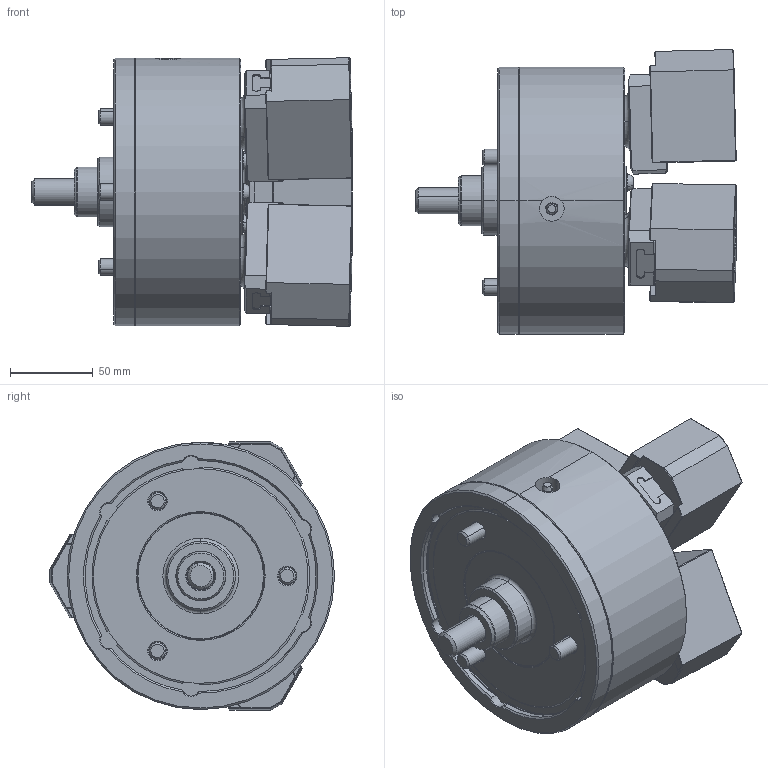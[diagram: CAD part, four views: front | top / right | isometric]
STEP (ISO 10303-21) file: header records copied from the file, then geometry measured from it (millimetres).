
FILE_DESCRIPTION (( 'STEP AP214' ), '1' );
FILE_NAME ('PW06_OC_ID.STEP', '2019-10-03T01:57:47', ( '' ), ( '' ), 'SwSTEP 2.0', 'SolidWorks 2017', '' );
FILE_SCHEMA (( 'AUTOMOTIVE_DESIGN' ));
Length unit declared in the file: millimetre
Products named in the file (5): 結合_ID; 0030110016; 61P422013; 61P324975; PW06_OC_ID
Assembly tree (13 placements, depth 2):
  PW06_OC_ID
    61P324975  x3
    61P422013  x3
    0030110016  x6
    結合_ID
Bounding box: 194.18 x 172.63 x 162.71 mm (x, y, z)
Volume: 2043940.8 mm3; surface area: 230297.4 mm2
Topology: 13 solids, 14 shells, 1741 faces, 4270 edges, 2668 vertices
Faces by surface type: plane 848, cone 315, cylinder 276, bspline 241, torus 61
Entity records: 52823 total; most frequent: CARTESIAN_POINT 20145, ORIENTED_EDGE 7160, DIRECTION 5920, EDGE_CURVE 3580, VERTEX_POINT 2273, AXIS2_PLACEMENT_3D 1999, VECTOR 1922, LINE 1922
